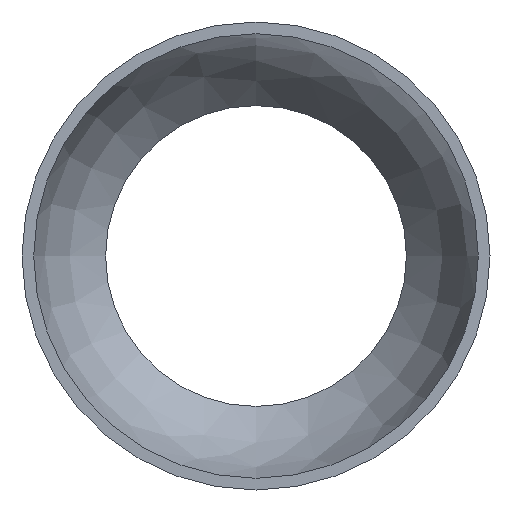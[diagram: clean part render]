
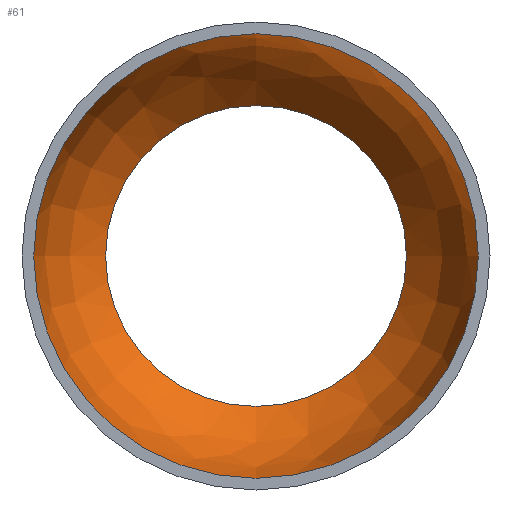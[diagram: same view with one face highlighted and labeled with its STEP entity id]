
A CAD part, front view. The second image highlights one B-rep face of the part: STEP entity #61.
In plain terms, the highlighted free-form (B-spline) face has degree [3, 3] with [4, 7] control points.
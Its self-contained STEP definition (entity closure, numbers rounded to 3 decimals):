
#61 = ADVANCED_FACE( '', ( #130, #131 ), #132, .F. );
#130 = FACE_OUTER_BOUND( '', #225, .T. );
#131 = FACE_OUTER_BOUND( '', #226, .T. );
#132 = ( BOUNDED_SURFACE(  )B_SPLINE_SURFACE( 3, 3, ( ( #229, #230, #231, #232, #233, #234, #235 ), ( #236, #237, #238, #239, #240, #241, #242 ), ( #243, #244, #245, #246, #247, #248, #249 ), ( #250, #251, #252, #253, #254, #255, #256 ) ), .UNSPECIFIED., .F., .T., .F. )B_SPLINE_SURFACE_WITH_KNOTS( ( 4, 4 ), ( 4, 3, 4 ), ( 0., 6.283 ), ( 0.076, 0.454, 0.831 ), .UNSPECIFIED. )GEOMETRIC_REPRESENTATION_ITEM(  )RATIONAL_B_SPLINE_SURFACE( ( ( 1., 0.333, 0.333, 1., 0.333, 0.333, 1. ), ( 0.953, 0.318, 0.318, 0.953, 0.318, 0.318, 0.953 ), ( 0.953, 0.318, 0.318, 0.953, 0.318, 0.318, 0.953 ), ( 1., 0.333, 0.333, 1., 0.333, 0.333, 1. ) ) )REPRESENTATION_ITEM( '' )SURFACE(  ) );
#225 = EDGE_LOOP( '', ( #335 ) );
#226 = EDGE_LOOP( '', ( #336 ) );
#229 = CARTESIAN_POINT( '', ( 0., 44.079, 45. ) );
#230 = CARTESIAN_POINT( '', ( 90., 44.079, 45. ) );
#231 = CARTESIAN_POINT( '', ( 90., 44.079, -45. ) );
#232 = CARTESIAN_POINT( '', ( 0., 44.079, -45. ) );
#233 = CARTESIAN_POINT( '', ( -90., 44.079, -45. ) );
#234 = CARTESIAN_POINT( '', ( -90., 44.079, 45. ) );
#235 = CARTESIAN_POINT( '', ( 0., 44.079, 45. ) );
#236 = CARTESIAN_POINT( '', ( 0., 32.519, 57.671 ) );
#237 = CARTESIAN_POINT( '', ( 115.343, 32.519, 57.671 ) );
#238 = CARTESIAN_POINT( '', ( 115.343, 32.519, -57.671 ) );
#239 = CARTESIAN_POINT( '', ( 0., 32.519, -57.671 ) );
#240 = CARTESIAN_POINT( '', ( -115.343, 32.519, -57.671 ) );
#241 = CARTESIAN_POINT( '', ( -115.343, 32.519, 57.671 ) );
#242 = CARTESIAN_POINT( '', ( 0., 32.519, 57.671 ) );
#243 = CARTESIAN_POINT( '', ( 0., 17.102, 65.188 ) );
#244 = CARTESIAN_POINT( '', ( 130.376, 17.102, 65.188 ) );
#245 = CARTESIAN_POINT( '', ( 130.376, 17.102, -65.188 ) );
#246 = CARTESIAN_POINT( '', ( 0., 17.102, -65.188 ) );
#247 = CARTESIAN_POINT( '', ( -130.376, 17.102, -65.188 ) );
#248 = CARTESIAN_POINT( '', ( -130.376, 17.102, 65.188 ) );
#249 = CARTESIAN_POINT( '', ( 0., 17.102, 65.188 ) );
#250 = CARTESIAN_POINT( '', ( 0., 0., 66.49 ) );
#251 = CARTESIAN_POINT( '', ( 132.981, 0., 66.49 ) );
#252 = CARTESIAN_POINT( '', ( 132.981, 0., -66.49 ) );
#253 = CARTESIAN_POINT( '', ( 0., 0., -66.49 ) );
#254 = CARTESIAN_POINT( '', ( -132.981, 0., -66.49 ) );
#255 = CARTESIAN_POINT( '', ( -132.981, 0., 66.49 ) );
#256 = CARTESIAN_POINT( '', ( 0., 0., 66.49 ) );
#335 = ORIENTED_EDGE( '', *, *, #362, .F. );
#336 = ORIENTED_EDGE( '', *, *, #352, .T. );
#352 = EDGE_CURVE( '', #388, #388, #389, .T. );
#362 = EDGE_CURVE( '', #400, #400, #401, .T. );
#388 = VERTEX_POINT( '', #427 );
#389 = CIRCLE( '', #428, 45. );
#400 = VERTEX_POINT( '', #439 );
#401 = CIRCLE( '', #440, 66.49 );
#427 = CARTESIAN_POINT( '', ( 0., 44.079, 45. ) );
#428 = AXIS2_PLACEMENT_3D( '', #470, #471, #472 );
#439 = CARTESIAN_POINT( '', ( 0., 0., 66.49 ) );
#440 = AXIS2_PLACEMENT_3D( '', #479, #480, #481 );
#470 = CARTESIAN_POINT( '', ( 0., 44.079, 0. ) );
#471 = DIRECTION( '', ( 0., 1., 0. ) );
#472 = DIRECTION( '', ( 0., 0., 1. ) );
#479 = CARTESIAN_POINT( '', ( 0., 0., 0. ) );
#480 = DIRECTION( '', ( 0., 1., 0. ) );
#481 = DIRECTION( '', ( 0., 0., 1. ) );
